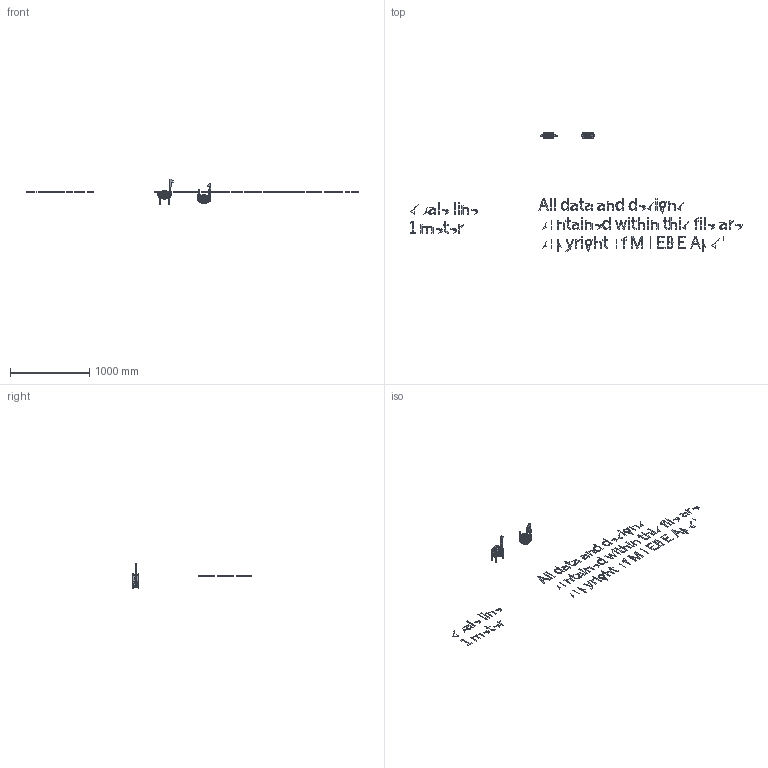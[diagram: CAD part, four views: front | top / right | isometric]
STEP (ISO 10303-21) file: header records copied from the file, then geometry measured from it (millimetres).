
FILE_DESCRIPTION(/* description */ (''),/* implementation_level */ '2;1');
FILE_NAME(/* name */ 'POLYGRIF_MOEBE.DK_COPYYRIGHT-PROTECTED',/* time_stamp */ '2020-04-15T11:12:47+02:00',/* author */ (''),/* organization */ (''),/* preprocessor_version */ 'ST-DEVELOPER v16.5',/* originating_system */ '',/* authorisation */ '');
FILE_SCHEMA (('AUTOMOTIVE_DESIGN'));
Length unit declared in the file: millimetre
Products named in the file (1): Document
Bounding box: 4198.58 x 1502.97 x 320 mm (x, y, z)
Volume: 2725273.6 mm3; surface area: 1170999.8 mm2
Topology: 116 solids, 116 shells, 1196 faces, 2896 edges, 1930 vertices
Faces by surface type: plane 735, bspline 461
Entity records: 36191 total; most frequent: CARTESIAN_POINT 15816, ORIENTED_EDGE 5784, EDGE_CURVE 2892, B_SPLINE_CURVE_WITH_KNOTS 2706, VERTEX_POINT 1928, EDGE_LOOP 1314, ADVANCED_FACE 1196, FACE_OUTER_BOUND 1196
